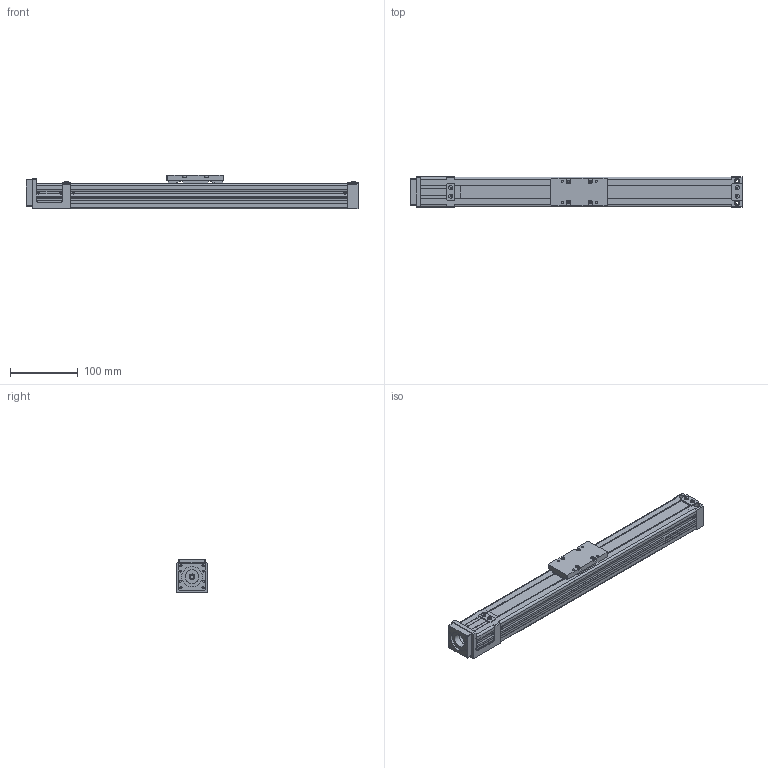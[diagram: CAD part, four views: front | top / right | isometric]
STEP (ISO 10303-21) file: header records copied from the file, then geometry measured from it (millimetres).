
FILE_DESCRIPTION((''),'2;1');
FILE_NAME('D:\製品 (図面)\カタログ用3D\SU部品\SU45×50\ダウンロード用\SU45×50-MB40\SU45×50-300-MB40.stp','2011-06-17T14:37:26',('Tsuchiya'),(''),'Autodesk Inventor 10','Autodesk Inventor 10','');
FILE_SCHEMA(('AUTOMOTIVE_DESIGN { 1 0 10303 214 1 1 1 1 }'));
Length unit declared in the file: millimetre
Products named in the file (3): SU45×50-300-MB40; SB45×50-300-MB40-1(1); SU45×50-T(1)
Assembly tree (2 placements, depth 2):
  SU45×50-300-MB40
    SB45×50-300-MB40-1(1)
    SU45×50-T(1)
Bounding box: 489 x 45 x 50 mm (x, y, z)
Volume: 311447.1 mm3; surface area: 196370.7 mm2
Topology: 2 solids, 2 shells, 679 faces, 1825 edges, 1203 vertices
Faces by surface type: plane 517, cylinder 84, bspline 47, torus 18, cone 13
Full cylindrical faces by diameter (mm): 2.459 x4, 3.242 x8, 3.4 x4, 4.5 x4, 5 x4, 6 x5, 7 x6, 8 x7, 10 x1, 20 x2, 30 x2
Entity records: 20915 total; most frequent: CARTESIAN_POINT 4531, ORIENTED_EDGE 3354, DIRECTION 3142, EDGE_CURVE 1677, VECTOR 1322, LINE 1322, VERTEX_POINT 1161, AXIS2_PLACEMENT_3D 910
